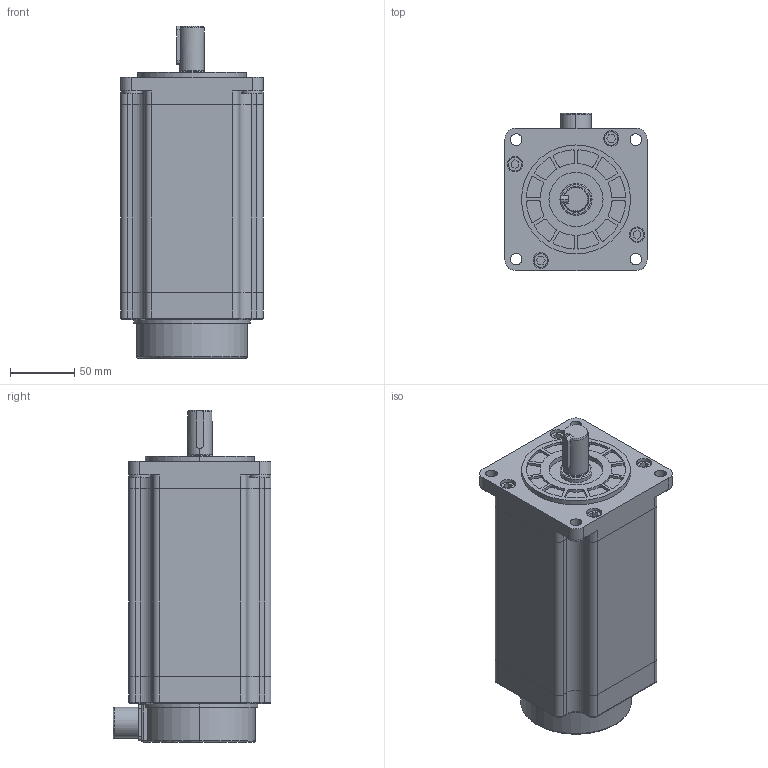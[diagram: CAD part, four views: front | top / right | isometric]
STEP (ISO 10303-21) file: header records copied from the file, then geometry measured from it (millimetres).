
FILE_DESCRIPTION (( 'STEP AP214' ), '1' );
FILE_NAME ('FHB31122(3B110-010).STEP', '2020-01-10T02:07:41', ( 'hzmg' ), ( '' ), 'SwSTEP 2.0', 'SolidWorks 2016', '' );
FILE_SCHEMA (( 'AUTOMOTIVE_DESIGN' ));
Length unit declared in the file: millimetre
Products named in the file (1): FHB31122(3B110-010)
Bounding box: 111 x 123.25 x 259 mm (x, y, z)
Volume: 2166767.8 mm3; surface area: 140502.1 mm2
Topology: 1 solids, 3 shells, 432 faces, 1104 edges, 717 vertices
Faces by surface type: cylinder 230, plane 178, torus 19, cone 3, sphere 2
Entity records: 13383 total; most frequent: DIRECTION 2442, CARTESIAN_POINT 2399, ORIENTED_EDGE 2204, EDGE_CURVE 1102, AXIS2_PLACEMENT_3D 915, VERTEX_POINT 717, LINE 612, VECTOR 612
